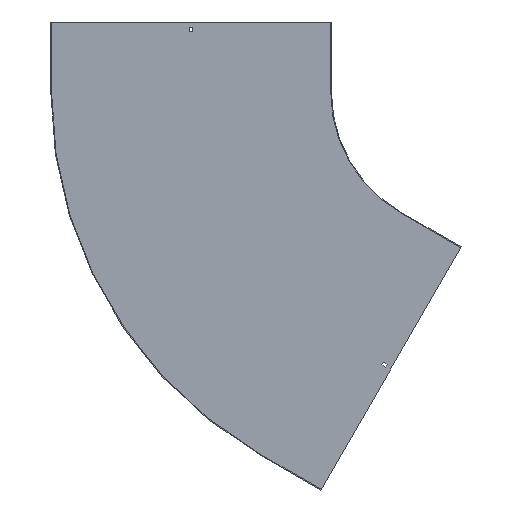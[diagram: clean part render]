
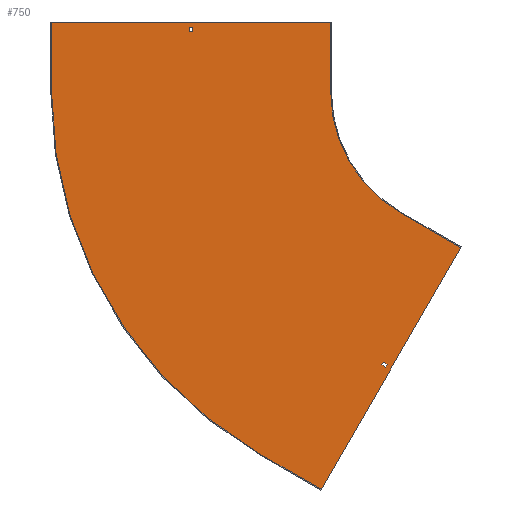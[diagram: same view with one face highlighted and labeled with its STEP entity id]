
A CAD part, front view. The second image highlights one B-rep face of the part: STEP entity #750.
In plain terms, the highlighted planar face has unit normal (0, -1, 0).
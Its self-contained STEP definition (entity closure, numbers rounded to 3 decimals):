
#3 = CARTESIAN_POINT ( 'NONE',  ( -320.096, -1.5, -854.423 ) ) ;
#7 = LINE ( 'NONE', #3, #89 ) ;
#16 = CIRCLE ( 'NONE', #547, 300. ) ;
#19 = VERTEX_POINT ( 'NONE', #210 ) ;
#20 = VECTOR ( 'NONE', #352, 1000. ) ;
#28 = CARTESIAN_POINT ( 'NONE',  ( -300., -1.5, 150. ) ) ;
#29 = VERTEX_POINT ( 'NONE', #215 ) ;
#31 = VERTEX_POINT ( 'NONE', #480 ) ;
#40 = VERTEX_POINT ( 'NONE', #121 ) ;
#47 = ORIENTED_EDGE ( 'NONE', *, *, #137, .F. ) ;
#48 = ORIENTED_EDGE ( 'NONE', *, *, #407, .T. ) ;
#51 = VECTOR ( 'NONE', #637, 1000. ) ;
#63 = ORIENTED_EDGE ( 'NONE', *, *, #93, .F. ) ;
#64 = CARTESIAN_POINT ( 'NONE',  ( -189.908, -1.5, -586.93 ) ) ;
#66 = ORIENTED_EDGE ( 'NONE', *, *, #574, .T. ) ;
#67 = ORIENTED_EDGE ( 'NONE', *, *, #271, .T. ) ;
#82 = LINE ( 'NONE', #280, #476 ) ;
#89 = VECTOR ( 'NONE', #388, 1000. ) ;
#91 = FACE_OUTER_BOUND ( 'NONE', #778, .T. ) ;
#92 = CARTESIAN_POINT ( 'NONE',  ( -150., -1.5, -259.808 ) ) ;
#93 = EDGE_CURVE ( 'NONE', #31, #792, #82, .T. ) ;
#96 = DIRECTION ( 'NONE',  ( 0., 0., -1. ) ) ;
#107 = CARTESIAN_POINT ( 'NONE',  ( -20.096, -1.5, -334.808 ) ) ;
#109 = ORIENTED_EDGE ( 'NONE', *, *, #167, .F. ) ;
#110 = LINE ( 'NONE', #241, #435 ) ;
#112 = LINE ( 'NONE', #376, #51 ) ;
#121 = CARTESIAN_POINT ( 'NONE',  ( -320.096, -1.5, -854.423 ) ) ;
#122 = LINE ( 'NONE', #398, #802 ) ;
#137 = EDGE_CURVE ( 'NONE', #812, #413, #16, .T. ) ;
#138 = VERTEX_POINT ( 'NONE', #107 ) ;
#153 = ORIENTED_EDGE ( 'NONE', *, *, #500, .F. ) ;
#162 = VECTOR ( 'NONE', #417, 1000. ) ;
#163 = EDGE_CURVE ( 'NONE', #767, #356, #579, .T. ) ;
#167 = EDGE_CURVE ( 'NONE', #792, #344, #441, .T. ) ;
#179 = LINE ( 'NONE', #635, #284 ) ;
#181 = DIRECTION ( 'NONE',  ( 0., -1., 0. ) ) ;
#182 = CIRCLE ( 'NONE', #514, 900. ) ;
#186 = CARTESIAN_POINT ( 'NONE',  ( -603.25, -1.5, 129. ) ) ;
#189 = DIRECTION ( 'NONE',  ( 0.5, 0., 0.866 ) ) ;
#203 = VECTOR ( 'NONE', #675, 1000. ) ;
#205 = DIRECTION ( 'NONE',  ( 0.866, 0., -0.5 ) ) ;
#210 = CARTESIAN_POINT ( 'NONE',  ( -186.658, -1.5, -581.301 ) ) ;
#215 = CARTESIAN_POINT ( 'NONE',  ( -178.863, -1.5, -585.801 ) ) ;
#222 = VERTEX_POINT ( 'NONE', #762 ) ;
#234 = DIRECTION ( 'NONE',  ( 0., 1., 0. ) ) ;
#241 = CARTESIAN_POINT ( 'NONE',  ( 119.512, -1.5, -69. ) ) ;
#242 = VERTEX_POINT ( 'NONE', #186 ) ;
#246 = LINE ( 'NONE', #370, #690 ) ;
#254 = DIRECTION ( 'NONE',  ( 0., -1., 0. ) ) ;
#257 = DIRECTION ( 'NONE',  ( 1., 0., 0. ) ) ;
#271 = EDGE_CURVE ( 'NONE', #356, #242, #246, .T. ) ;
#280 = CARTESIAN_POINT ( 'NONE',  ( -900., -1.5, 0. ) ) ;
#284 = VECTOR ( 'NONE', #700, 1000. ) ;
#297 = EDGE_CURVE ( 'NONE', #138, #40, #112, .T. ) ;
#311 = CARTESIAN_POINT ( 'NONE',  ( -300., -1.5, 150. ) ) ;
#313 = EDGE_LOOP ( 'NONE', ( #66, #401, #67, #48 ) ) ;
#324 = CARTESIAN_POINT ( 'NONE',  ( -301.625, -1.5, -522.43 ) ) ;
#328 = ORIENTED_EDGE ( 'NONE', *, *, #372, .F. ) ;
#331 = LINE ( 'NONE', #411, #203 ) ;
#341 = ORIENTED_EDGE ( 'NONE', *, *, #826, .F. ) ;
#344 = VERTEX_POINT ( 'NONE', #311 ) ;
#352 = DIRECTION ( 'NONE',  ( 0.866, 0., -0.5 ) ) ;
#356 = VERTEX_POINT ( 'NONE', #385 ) ;
#359 = CARTESIAN_POINT ( 'NONE',  ( 0., -1.5, 0. ) ) ;
#360 = CARTESIAN_POINT ( 'NONE',  ( -300., -1.5, 0. ) ) ;
#366 = VERTEX_POINT ( 'NONE', #662 ) ;
#370 = CARTESIAN_POINT ( 'NONE',  ( 0., -1.5, 129. ) ) ;
#372 = EDGE_CURVE ( 'NONE', #378, #222, #862, .T. ) ;
#375 = ORIENTED_EDGE ( 'NONE', *, *, #841, .F. ) ;
#376 = CARTESIAN_POINT ( 'NONE',  ( -19.346, -1.5, -333.509 ) ) ;
#378 = VERTEX_POINT ( 'NONE', #64 ) ;
#381 = VECTOR ( 'NONE', #784, 1000. ) ;
#385 = CARTESIAN_POINT ( 'NONE',  ( -596.75, -1.5, 129. ) ) ;
#388 = DIRECTION ( 'NONE',  ( -0.866, 0., 0.5 ) ) ;
#398 = CARTESIAN_POINT ( 'NONE',  ( 111.717, -1.5, -64.5 ) ) ;
#401 = ORIENTED_EDGE ( 'NONE', *, *, #163, .T. ) ;
#407 = EDGE_CURVE ( 'NONE', #242, #492, #836, .T. ) ;
#408 = DIRECTION ( 'NONE',  ( 0., 0., 1. ) ) ;
#411 = CARTESIAN_POINT ( 'NONE',  ( 0., -1.5, 138. ) ) ;
#413 = VERTEX_POINT ( 'NONE', #92 ) ;
#414 = LINE ( 'NONE', #28, #162 ) ;
#417 = DIRECTION ( 'NONE',  ( 0., 0., -1. ) ) ;
#432 = CARTESIAN_POINT ( 'NONE',  ( -900., -1.5, 150. ) ) ;
#435 = VECTOR ( 'NONE', #189, 1000. ) ;
#441 = LINE ( 'NONE', #854, #771 ) ;
#457 = EDGE_CURVE ( 'NONE', #344, #812, #414, .T. ) ;
#462 = DIRECTION ( 'NONE',  ( -0.5, 0., -0.866 ) ) ;
#476 = VECTOR ( 'NONE', #408, 1000. ) ;
#480 = CARTESIAN_POINT ( 'NONE',  ( -900., -1.5, 0. ) ) ;
#492 = VERTEX_POINT ( 'NONE', #751 ) ;
#497 = CARTESIAN_POINT ( 'NONE',  ( -150., -1.5, -259.808 ) ) ;
#500 = EDGE_CURVE ( 'NONE', #366, #31, #182, .T. ) ;
#513 = PLANE ( 'NONE',  #644 ) ;
#514 = AXIS2_PLACEMENT_3D ( 'NONE', #359, #234, #822 ) ;
#520 = CARTESIAN_POINT ( 'NONE',  ( -596.75, -1.5, 138. ) ) ;
#526 = FACE_BOUND ( 'NONE', #313, .T. ) ;
#535 = ORIENTED_EDGE ( 'NONE', *, *, #814, .F. ) ;
#547 = AXIS2_PLACEMENT_3D ( 'NONE', #676, #181, #96 ) ;
#551 = EDGE_CURVE ( 'NONE', #413, #138, #832, .T. ) ;
#559 = ORIENTED_EDGE ( 'NONE', *, *, #457, .F. ) ;
#565 = EDGE_LOOP ( 'NONE', ( #535, #615, #328, #375 ) ) ;
#574 = EDGE_CURVE ( 'NONE', #492, #767, #331, .T. ) ;
#579 = LINE ( 'NONE', #774, #381 ) ;
#597 = VECTOR ( 'NONE', #205, 1000. ) ;
#602 = ORIENTED_EDGE ( 'NONE', *, *, #297, .F. ) ;
#615 = ORIENTED_EDGE ( 'NONE', *, *, #787, .F. ) ;
#635 = CARTESIAN_POINT ( 'NONE',  ( -298.375, -1.5, -516.801 ) ) ;
#637 = DIRECTION ( 'NONE',  ( -0.5, 0., -0.866 ) ) ;
#644 = AXIS2_PLACEMENT_3D ( 'NONE', #780, #254, #848 ) ;
#662 = CARTESIAN_POINT ( 'NONE',  ( -450., -1.5, -779.423 ) ) ;
#675 = DIRECTION ( 'NONE',  ( 1., 0., 0. ) ) ;
#676 = CARTESIAN_POINT ( 'NONE',  ( 0., -1.5, 0. ) ) ;
#688 = FACE_BOUND ( 'NONE', #565, .T. ) ;
#690 = VECTOR ( 'NONE', #789, 1000. ) ;
#700 = DIRECTION ( 'NONE',  ( -0.866, 0., 0.5 ) ) ;
#733 = ORIENTED_EDGE ( 'NONE', *, *, #551, .F. ) ;
#746 = DIRECTION ( 'NONE',  ( 0., 0., 1. ) ) ;
#750 = ADVANCED_FACE ( 'NONE', ( #688, #91, #526 ), #513, .T. ) ;
#751 = CARTESIAN_POINT ( 'NONE',  ( -603.25, -1.5, 138. ) ) ;
#762 = CARTESIAN_POINT ( 'NONE',  ( -182.113, -1.5, -591.43 ) ) ;
#763 = CARTESIAN_POINT ( 'NONE',  ( -603.25, -1.5, 0. ) ) ;
#767 = VERTEX_POINT ( 'NONE', #520 ) ;
#771 = VECTOR ( 'NONE', #257, 1000. ) ;
#774 = CARTESIAN_POINT ( 'NONE',  ( -596.75, -1.5, 0. ) ) ;
#778 = EDGE_LOOP ( 'NONE', ( #109, #63, #153, #341, #602, #733, #47, #559 ) ) ;
#780 = CARTESIAN_POINT ( 'NONE',  ( 0., -1.5, 0. ) ) ;
#784 = DIRECTION ( 'NONE',  ( 0., 0., -1. ) ) ;
#787 = EDGE_CURVE ( 'NONE', #222, #29, #110, .T. ) ;
#789 = DIRECTION ( 'NONE',  ( -1., 0., 0. ) ) ;
#792 = VERTEX_POINT ( 'NONE', #432 ) ;
#802 = VECTOR ( 'NONE', #462, 1000. ) ;
#812 = VERTEX_POINT ( 'NONE', #360 ) ;
#814 = EDGE_CURVE ( 'NONE', #29, #19, #179, .T. ) ;
#818 = VECTOR ( 'NONE', #746, 1000. ) ;
#822 = DIRECTION ( 'NONE',  ( 0., 0., -1. ) ) ;
#826 = EDGE_CURVE ( 'NONE', #40, #366, #7, .T. ) ;
#832 = LINE ( 'NONE', #497, #20 ) ;
#836 = LINE ( 'NONE', #763, #818 ) ;
#841 = EDGE_CURVE ( 'NONE', #19, #378, #122, .T. ) ;
#848 = DIRECTION ( 'NONE',  ( 0., 0., -1. ) ) ;
#854 = CARTESIAN_POINT ( 'NONE',  ( -901.5, -1.5, 150. ) ) ;
#862 = LINE ( 'NONE', #324, #597 ) ;
